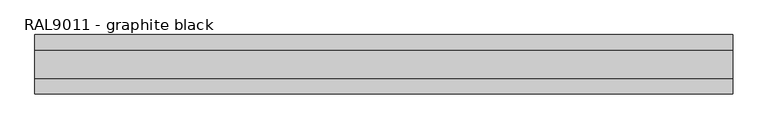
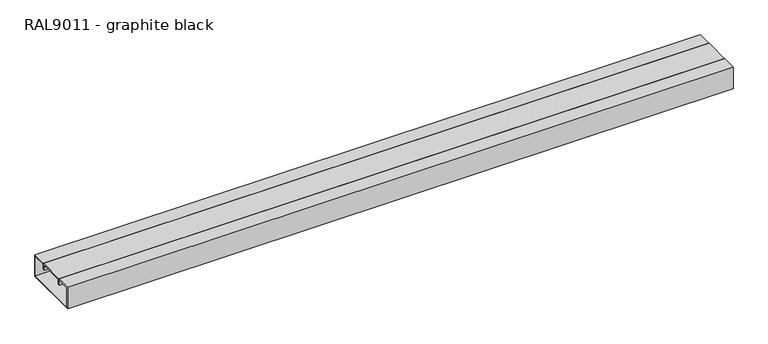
"""IFC4 building model written with IfcOpenShell, lengths in millimetres: proxy geometry, Electrical_Installations_Hager_BRP-Lid-End-Cap-One-Compartment : RAL9011 - graphite black."""

from ifc_helpers import new_model, si_unit, frame, origin, place, context, project, spatial, polyline, outline, extrude, source, transform, mapped, element, save


def ral9011_graphite_black_5f1cb885(model_context):
    return source(origin(), model_context, "Body", "SweptSolid", [
        extrude(outline(polyline([(40.0, 18.6492509), (37.5361498, 18.6492509), (37.5361498, 30.0), (-37.5361498, 30.0), (-37.5361498, 18.6492509), (-40.0, 18.6492509), (-40.0, 33.0), (40.0, 33.0), (40.0, 18.6492509)])), frame((0.0, 0.0, 0.0), z_axis=(1.0, 0.0, 0.0), x_axis=(0.0, 1.0, 0.0)), (0.0, 0.0, 1.0), 2000.0),
        extrude(outline(polyline([(85.0, 33.0), (85.0, -35.0582587), (-85.0, -35.0582587), (-85.0, 33.0), (-40.5, 33.0), (-40.5, 16.0), (-36.578125, 16.0), (-36.578125, 24.0415809), (-35.3, 24.0415809), (-35.3, 14.0), (-42.5, 14.0), (-42.5, 30.0), (-82.0, 30.0), (-82.0, -32.0582587), (82.0, -32.0582587), (82.0, 30.0), (42.5, 30.0), (42.5, 14.0), (35.221875, 14.0), (35.221875, 24.0415809), (36.5, 24.0415809), (36.5, 16.0), (40.5, 16.0), (40.5, 33.0), (85.0, 33.0)])), frame((0.0, 0.0, 0.0), z_axis=(1.0, 0.0, 0.0), x_axis=(0.0, 1.0, 0.0)), (0.0, 0.0, 1.0), 2000.0),
    ])


if __name__ == "__main__":
    model = new_model("IFC4")
    model_context = context("Model", 3, world=origin())
    ifc_project = project(units=[si_unit("LENGTHUNIT", "METRE", prefix="MILLI")], contexts=[model_context])
    site = spatial("IfcSite", under=ifc_project)
    building = spatial("IfcBuilding", under=site)
    placement = place(None, origin())
    ral9011_graphite_black_shape = ral9011_graphite_black_5f1cb885(model_context)
    element("IfcBuildingElementProxy", 1, Name="Electrical_Installations_Hager_BRP-Lid-End-Cap-One-Compartment : RAL9011 - graphite black", ObjectType="Electrical_Installations_Hager_BRP-Lid-End-Cap-One-Compartment : RAL9011 - graphite black", at=placement, inside=building, context=model_context, shape_type="MappedRepresentation", body=[
        mapped(ral9011_graphite_black_shape, transform((0.0, 0.0, 0.0), x_axis=(1.0, 0.0, 0.0), y_axis=(0.0, 1.0, 0.0), z_axis=(0.0, 0.0, 1.0))),
    ])
    save(model, "model.ifc")
